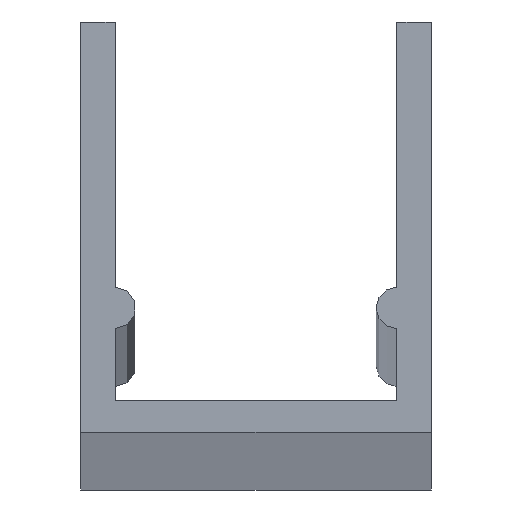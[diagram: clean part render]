
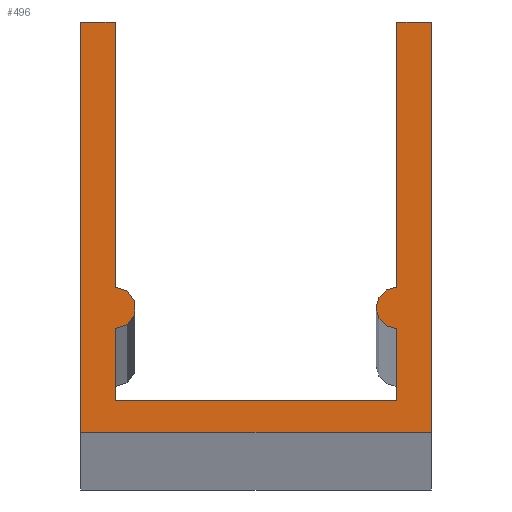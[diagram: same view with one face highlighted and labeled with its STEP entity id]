
A CAD part, top view. The second image highlights one B-rep face of the part: STEP entity #496.
In plain terms, the highlighted planar face has unit normal (0, 0, 1).
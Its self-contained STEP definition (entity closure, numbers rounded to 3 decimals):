
#9 = DIRECTION ( 'NONE',  ( 0., 0., 1. ) ) ;
#10 = VECTOR ( 'NONE', #491, 1000. ) ;
#13 = AXIS2_PLACEMENT_3D ( 'NONE', #321, #163, #444 ) ;
#20 = VERTEX_POINT ( 'NONE', #37 ) ;
#23 = LINE ( 'NONE', #106, #180 ) ;
#25 = LINE ( 'NONE', #307, #412 ) ;
#37 = CARTESIAN_POINT ( 'NONE',  ( -6.35, 0., 600. ) ) ;
#38 = EDGE_LOOP ( 'NONE', ( #318, #268, #313, #273, #502, #448, #421, #144, #125, #281, #350, #200, #245 ) ) ;
#55 = DIRECTION ( 'NONE',  ( 0., 1., 0. ) ) ;
#61 = CARTESIAN_POINT ( 'NONE',  ( -6.35, 14.85, 600. ) ) ;
#63 = CARTESIAN_POINT ( 'NONE',  ( 5.1, 3.75, 600. ) ) ;
#66 = PLANE ( 'NONE',  #458 ) ;
#70 = VERTEX_POINT ( 'NONE', #279 ) ;
#71 = VECTOR ( 'NONE', #516, 1000. ) ;
#77 = CARTESIAN_POINT ( 'NONE',  ( 5.1, 14.85, 600. ) ) ;
#82 = LINE ( 'NONE', #329, #10 ) ;
#84 = CARTESIAN_POINT ( 'NONE',  ( 5.1, 5.25, 600. ) ) ;
#89 = EDGE_CURVE ( 'NONE', #123, #191, #197, .T. ) ;
#97 = DIRECTION ( 'NONE',  ( -1., 0., 0. ) ) ;
#101 = CARTESIAN_POINT ( 'NONE',  ( 5.1, 1.15, 600. ) ) ;
#104 = CIRCLE ( 'NONE', #13, 0.75 ) ;
#106 = CARTESIAN_POINT ( 'NONE',  ( 5.1, 1.15, 600. ) ) ;
#111 = EDGE_CURVE ( 'NONE', #278, #123, #339, .T. ) ;
#114 = DIRECTION ( 'NONE',  ( -1., 0., 0. ) ) ;
#123 = VERTEX_POINT ( 'NONE', #223 ) ;
#125 = ORIENTED_EDGE ( 'NONE', *, *, #323, .T. ) ;
#128 = VERTEX_POINT ( 'NONE', #101 ) ;
#134 = EDGE_CURVE ( 'NONE', #476, #128, #391, .T. ) ;
#142 = CARTESIAN_POINT ( 'NONE',  ( -5.1, 1.15, 600. ) ) ;
#144 = ORIENTED_EDGE ( 'NONE', *, *, #187, .T. ) ;
#145 = DIRECTION ( 'NONE',  ( 1., 0., 0. ) ) ;
#146 = DIRECTION ( 'NONE',  ( 0., 1., 0. ) ) ;
#148 = LINE ( 'NONE', #377, #192 ) ;
#149 = EDGE_CURVE ( 'NONE', #196, #20, #153, .T. ) ;
#153 = LINE ( 'NONE', #266, #331 ) ;
#157 = CARTESIAN_POINT ( 'NONE',  ( -5.1, 5.25, 600. ) ) ;
#163 = DIRECTION ( 'NONE',  ( 0., 0., 1. ) ) ;
#180 = VECTOR ( 'NONE', #97, 1000. ) ;
#185 = LINE ( 'NONE', #344, #204 ) ;
#187 = EDGE_CURVE ( 'NONE', #128, #237, #23, .T. ) ;
#188 = DIRECTION ( 'NONE',  ( 0., 0., -1. ) ) ;
#190 = CARTESIAN_POINT ( 'NONE',  ( -5.1, 1.15, 600. ) ) ;
#191 = VERTEX_POINT ( 'NONE', #300 ) ;
#192 = VECTOR ( 'NONE', #145, 1000. ) ;
#196 = VERTEX_POINT ( 'NONE', #61 ) ;
#197 = LINE ( 'NONE', #157, #71 ) ;
#200 = ORIENTED_EDGE ( 'NONE', *, *, #258, .T. ) ;
#204 = VECTOR ( 'NONE', #55, 1000. ) ;
#206 = CARTESIAN_POINT ( 'NONE',  ( 5.1, 3.75, 600. ) ) ;
#214 = CARTESIAN_POINT ( 'NONE',  ( -5.1, 3.75, 600. ) ) ;
#215 = DIRECTION ( 'NONE',  ( -1., 0., 0. ) ) ;
#218 = DIRECTION ( 'NONE',  ( 0., -1., 0. ) ) ;
#223 = CARTESIAN_POINT ( 'NONE',  ( -5.1, 5.25, 600. ) ) ;
#234 = EDGE_CURVE ( 'NONE', #70, #445, #185, .T. ) ;
#237 = VERTEX_POINT ( 'NONE', #142 ) ;
#239 = FACE_OUTER_BOUND ( 'NONE', #38, .T. ) ;
#241 = DIRECTION ( 'NONE',  ( 0., -1., 0. ) ) ;
#245 = ORIENTED_EDGE ( 'NONE', *, *, #149, .T. ) ;
#250 = EDGE_CURVE ( 'NONE', #20, #70, #148, .T. ) ;
#258 = EDGE_CURVE ( 'NONE', #191, #196, #25, .T. ) ;
#262 = DIRECTION ( 'NONE',  ( 0., -1., 0. ) ) ;
#266 = CARTESIAN_POINT ( 'NONE',  ( -6.35, 14.85, 600. ) ) ;
#268 = ORIENTED_EDGE ( 'NONE', *, *, #234, .T. ) ;
#273 = ORIENTED_EDGE ( 'NONE', *, *, #456, .T. ) ;
#278 = VERTEX_POINT ( 'NONE', #214 ) ;
#279 = CARTESIAN_POINT ( 'NONE',  ( 6.35, 0., 600. ) ) ;
#281 = ORIENTED_EDGE ( 'NONE', *, *, #111, .T. ) ;
#285 = CARTESIAN_POINT ( 'NONE',  ( -5.1, 4.5, 600. ) ) ;
#288 = AXIS2_PLACEMENT_3D ( 'NONE', #285, #423, #426 ) ;
#289 = EDGE_CURVE ( 'NONE', #445, #398, #82, .T. ) ;
#300 = CARTESIAN_POINT ( 'NONE',  ( -5.1, 14.85, 600. ) ) ;
#304 = CARTESIAN_POINT ( 'NONE',  ( 6.35, 14.85, 600. ) ) ;
#307 = CARTESIAN_POINT ( 'NONE',  ( -5.1, 14.85, 600. ) ) ;
#313 = ORIENTED_EDGE ( 'NONE', *, *, #289, .T. ) ;
#318 = ORIENTED_EDGE ( 'NONE', *, *, #250, .T. ) ;
#321 = CARTESIAN_POINT ( 'NONE',  ( 5.1, 4.5, 600. ) ) ;
#323 = EDGE_CURVE ( 'NONE', #237, #278, #397, .T. ) ;
#327 = LINE ( 'NONE', #365, #407 ) ;
#329 = CARTESIAN_POINT ( 'NONE',  ( 6.35, 14.85, 600. ) ) ;
#331 = VECTOR ( 'NONE', #218, 1000. ) ;
#339 = CIRCLE ( 'NONE', #288, 0.75 ) ;
#344 = CARTESIAN_POINT ( 'NONE',  ( 6.35, 0., 600. ) ) ;
#350 = ORIENTED_EDGE ( 'NONE', *, *, #89, .T. ) ;
#365 = CARTESIAN_POINT ( 'NONE',  ( 5.1, 14.85, 600. ) ) ;
#371 = VECTOR ( 'NONE', #146, 1000. ) ;
#377 = CARTESIAN_POINT ( 'NONE',  ( -6.35, 0., 600. ) ) ;
#391 = LINE ( 'NONE', #63, #406 ) ;
#397 = LINE ( 'NONE', #190, #371 ) ;
#398 = VERTEX_POINT ( 'NONE', #77 ) ;
#406 = VECTOR ( 'NONE', #262, 1000. ) ;
#407 = VECTOR ( 'NONE', #241, 1000. ) ;
#412 = VECTOR ( 'NONE', #430, 1000. ) ;
#416 = CIRCLE ( 'NONE', #507, 0.75 ) ;
#421 = ORIENTED_EDGE ( 'NONE', *, *, #134, .T. ) ;
#423 = DIRECTION ( 'NONE',  ( 0., 0., 1. ) ) ;
#426 = DIRECTION ( 'NONE',  ( 1., 0., 0. ) ) ;
#430 = DIRECTION ( 'NONE',  ( -1., 0., 0. ) ) ;
#442 = VERTEX_POINT ( 'NONE', #506 ) ;
#444 = DIRECTION ( 'NONE',  ( -1., 0., 0. ) ) ;
#445 = VERTEX_POINT ( 'NONE', #304 ) ;
#448 = ORIENTED_EDGE ( 'NONE', *, *, #465, .T. ) ;
#452 = CARTESIAN_POINT ( 'NONE',  ( 5.1, 4.5, 600. ) ) ;
#456 = EDGE_CURVE ( 'NONE', #398, #518, #327, .T. ) ;
#458 = AXIS2_PLACEMENT_3D ( 'NONE', #483, #188, #114 ) ;
#465 = EDGE_CURVE ( 'NONE', #442, #476, #104, .T. ) ;
#476 = VERTEX_POINT ( 'NONE', #206 ) ;
#483 = CARTESIAN_POINT ( 'NONE',  ( 5.1, 4.5, 600. ) ) ;
#491 = DIRECTION ( 'NONE',  ( -1., 0., 0. ) ) ;
#496 = ADVANCED_FACE ( 'NONE', ( #239 ), #66, .F. ) ;
#502 = ORIENTED_EDGE ( 'NONE', *, *, #504, .T. ) ;
#504 = EDGE_CURVE ( 'NONE', #518, #442, #416, .T. ) ;
#506 = CARTESIAN_POINT ( 'NONE',  ( 4.35, 4.5, 600. ) ) ;
#507 = AXIS2_PLACEMENT_3D ( 'NONE', #452, #9, #215 ) ;
#516 = DIRECTION ( 'NONE',  ( 0., 1., 0. ) ) ;
#518 = VERTEX_POINT ( 'NONE', #84 ) ;
